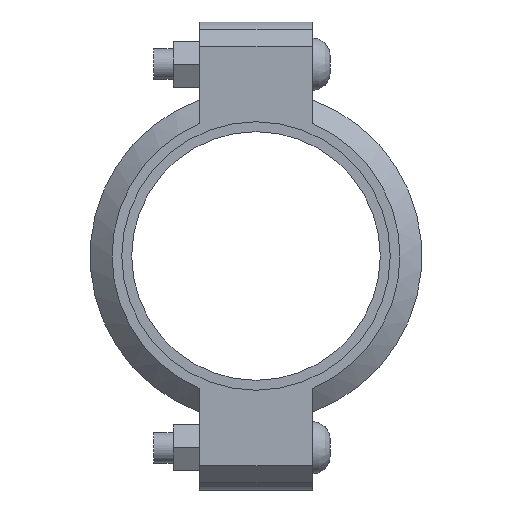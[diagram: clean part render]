
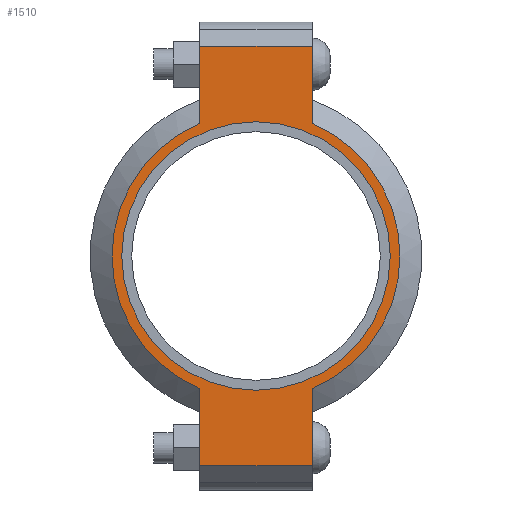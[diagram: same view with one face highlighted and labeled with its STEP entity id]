
A CAD part, left-side view. The second image highlights one B-rep face of the part: STEP entity #1510.
In plain terms, the highlighted planar face has unit normal (-1, 0, 0) as drawn and (0, 0, 1) by its records, which use the part's own axes.
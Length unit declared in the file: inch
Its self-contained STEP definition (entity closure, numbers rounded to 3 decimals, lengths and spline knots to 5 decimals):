
#134=LINE('',#2644,#227);
#142=LINE('',#2680,#235);
#149=LINE('',#2701,#242);
#158=LINE('',#2733,#251);
#159=LINE('',#2737,#252);
#160=LINE('',#2739,#253);
#227=VECTOR('',#2164,0.3937);
#235=VECTOR('',#2180,0.3937);
#242=VECTOR('',#2199,0.3937);
#251=VECTOR('',#2224,0.3937);
#252=VECTOR('',#2229,0.3937);
#253=VECTOR('',#2230,0.3937);
#309=FACE_BOUND('',#487,.T.);
#381=FACE_OUTER_BOUND('',#486,.T.);
#486=EDGE_LOOP('',(#1251,#1252,#1253,#1254,#1255,#1256,#1257,#1258));
#487=EDGE_LOOP('',(#1259));
#559=CIRCLE('',#1738,2.75);
#585=CIRCLE('',#1797,2.95);
#586=CIRCLE('',#1798,2.95);
#651=VERTEX_POINT('',#2460);
#694=VERTEX_POINT('',#2641);
#695=VERTEX_POINT('',#2643);
#706=VERTEX_POINT('',#2675);
#707=VERTEX_POINT('',#2679);
#714=VERTEX_POINT('',#2698);
#715=VERTEX_POINT('',#2700);
#725=VERTEX_POINT('',#2736);
#726=VERTEX_POINT('',#2738);
#807=EDGE_CURVE('',#651,#651,#559,.T.);
#868=EDGE_CURVE('',#695,#694,#134,.T.);
#882=EDGE_CURVE('',#707,#706,#142,.T.);
#892=EDGE_CURVE('',#715,#714,#149,.T.);
#907=EDGE_CURVE('',#707,#694,#158,.T.);
#908=EDGE_CURVE('',#706,#715,#585,.T.);
#909=EDGE_CURVE('',#725,#714,#159,.T.);
#910=EDGE_CURVE('',#725,#726,#160,.T.);
#911=EDGE_CURVE('',#726,#695,#586,.T.);
#1251=ORIENTED_EDGE('',*,*,#907,.F.);
#1252=ORIENTED_EDGE('',*,*,#882,.T.);
#1253=ORIENTED_EDGE('',*,*,#908,.T.);
#1254=ORIENTED_EDGE('',*,*,#892,.T.);
#1255=ORIENTED_EDGE('',*,*,#909,.F.);
#1256=ORIENTED_EDGE('',*,*,#910,.T.);
#1257=ORIENTED_EDGE('',*,*,#911,.T.);
#1258=ORIENTED_EDGE('',*,*,#868,.T.);
#1259=ORIENTED_EDGE('',*,*,#807,.T.);
#1352=PLANE('',#1796);
#1510=ADVANCED_FACE('',(#381,#309),#1352,.T.);
#1738=AXIS2_PLACEMENT_3D('',#2462,#2040,#2041);
#1796=AXIS2_PLACEMENT_3D('',#2734,#2225,#2226);
#1797=AXIS2_PLACEMENT_3D('',#2735,#2227,#2228);
#1798=AXIS2_PLACEMENT_3D('',#2740,#2231,#2232);
#2040=DIRECTION('center_axis',(0.,0.,-1.));
#2041=DIRECTION('ref_axis',(1.,0.,0.));
#2164=DIRECTION('',(1.,0.,0.));
#2180=DIRECTION('',(-1.,0.,0.));
#2199=DIRECTION('',(-1.,0.,0.));
#2224=DIRECTION('',(0.,-1.,0.));
#2225=DIRECTION('center_axis',(0.,0.,1.));
#2226=DIRECTION('ref_axis',(-1.,0.,0.));
#2227=DIRECTION('center_axis',(0.,0.,1.));
#2228=DIRECTION('ref_axis',(1.,0.,0.));
#2229=DIRECTION('',(0.,1.,0.));
#2230=DIRECTION('',(1.,0.,0.));
#2231=DIRECTION('center_axis',(0.,0.,1.));
#2232=DIRECTION('ref_axis',(1.,0.,0.));
#2460=CARTESIAN_POINT('',(-2.75,0.,1.065));
#2462=CARTESIAN_POINT('Origin',(0.,0.,1.065));
#2641=CARTESIAN_POINT('',(4.295,-1.15,1.065));
#2643=CARTESIAN_POINT('',(2.71662,-1.15,1.065));
#2644=CARTESIAN_POINT('',(4.795,-1.15,1.065));
#2675=CARTESIAN_POINT('',(2.71662,1.15,1.065));
#2679=CARTESIAN_POINT('',(4.295,1.15,1.065));
#2680=CARTESIAN_POINT('',(-4.795,1.15,1.065));
#2698=CARTESIAN_POINT('',(-4.295,1.15,1.065));
#2700=CARTESIAN_POINT('',(-2.71662,1.15,1.065));
#2701=CARTESIAN_POINT('',(-4.795,1.15,1.065));
#2733=CARTESIAN_POINT('',(4.295,-0.575,1.065));
#2734=CARTESIAN_POINT('Origin',(0.,0.,
1.065));
#2735=CARTESIAN_POINT('Origin',(0.,0.,1.065));
#2736=CARTESIAN_POINT('',(-4.295,-1.15,1.065));
#2737=CARTESIAN_POINT('',(-4.295,0.575,1.065));
#2738=CARTESIAN_POINT('',(-2.71662,-1.15,1.065));
#2739=CARTESIAN_POINT('',(4.795,-1.15,1.065));
#2740=CARTESIAN_POINT('Origin',(0.,0.,1.065));
